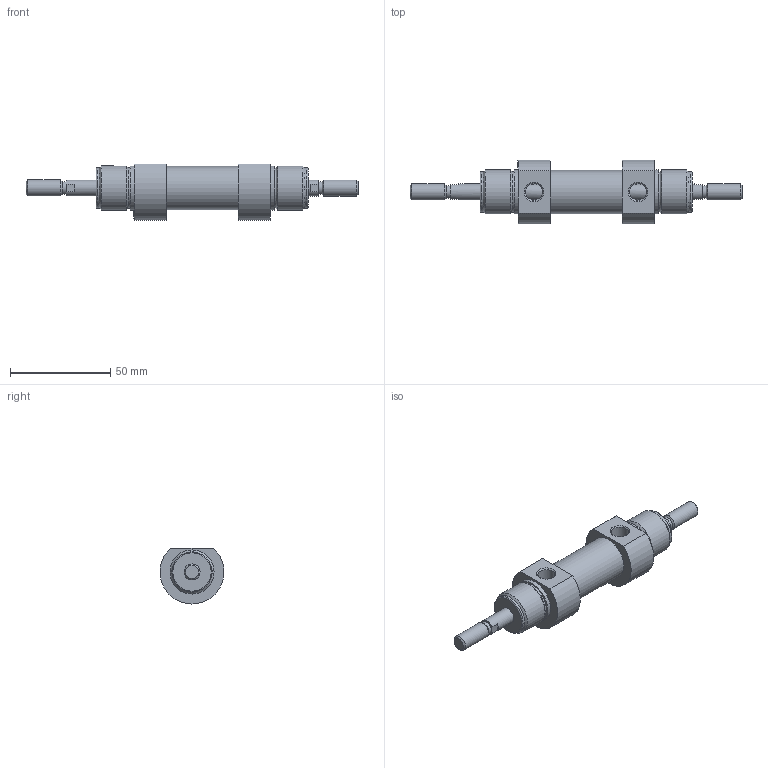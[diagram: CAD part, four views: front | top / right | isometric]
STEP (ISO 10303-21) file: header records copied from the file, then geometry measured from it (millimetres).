
FILE_DESCRIPTION(/* description */ (''),/* implementation_level */ '2;1');
FILE_NAME(/* name */ '\\UNIVER\Disegni in Archivio 2\CATALOGO STEP_Sito\MODELLI CILINDRI M\3D STEP\M101_M201\dia. 20\M101-20-0000.stp',/* time_stamp */ '2014-02-04T10:23:08+01:00',/* author */ ('Boceda'),/* organization */ (''),/* preprocessor_version */ 'ST-DEVELOPER v15.2',/* originating_system */ 'Autodesk Inventor 2014',/* authorisation */ '');
FILE_SCHEMA (('AUTOMOTIVE_DESIGN { 1 0 10303 214 3 1 1 }'));
Length unit declared in the file: centimetre
Products named in the file (1): M101-20-0000
Bounding box: 166 x 32 x 28 mm (x, y, z)
Volume: 52962.5 mm3; surface area: 12531.3 mm2
Topology: 1 solids, 1 shells, 59 faces, 118 edges, 73 vertices
Faces by surface type: plane 22, cylinder 21, cone 14, torus 2
Full cylindrical faces by diameter (mm): 6.466 x2, 8 x4, 8.566 x2, 20.16 x4, 21.6 x1, 22 x4
Entity records: 1453 total; most frequent: CARTESIAN_POINT 322, DIRECTION 248, ORIENTED_EDGE 168, AXIS2_PLACEMENT_3D 112, EDGE_LOOP 100, EDGE_CURVE 84, VERTEX_POINT 68, FACE_OUTER_BOUND 59
